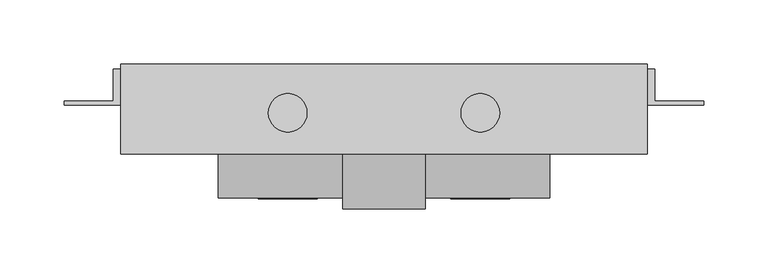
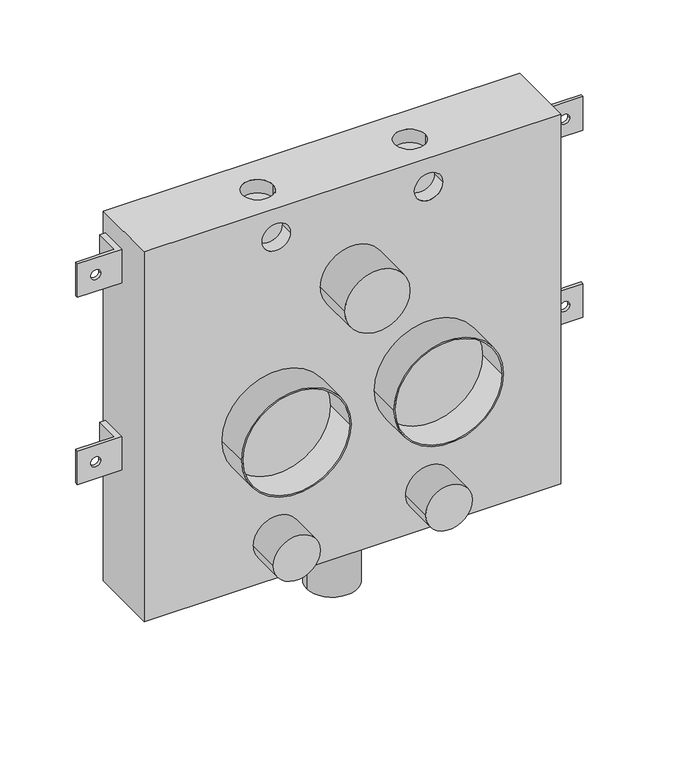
"""IFC4 building model written with IfcOpenShell, lengths in millimetres: flow terminal geometry, nextVIT Waschtisch-Element Wasserzählerstrecke WZ2 Rotguss : nextVIT Waschtisch-Element Wasserzählerstrecke WZ2 Rotguss."""

from ifc_helpers import new_model, si_unit, point, frame, frame_2d, origin, place, context, project, spatial, polyline, circle_curve, ellipse_curve, trimmed, segment, composite_curve, outline, extrude, source, transform, mapped, element, save
from ifc_brep_helpers import plane_surface, revolved_surface, extruded_surface, advanced_brep


def flow_terminal_fb088d42(model_context):
    return source(origin(), model_context, "Body", "SolidModel", [
        advanced_brep(
        [(205.0, -30.0, 620.0677064), (-205.0, -30.0, 620.0677064), (-205.0, -100.0, 620.0677064), (205.0, -100.0, 620.0677064), (-90.0, -68.0, 620.0677064), (-60.0, -68.0, 620.0677064), (60.0, -68.0, 620.0677064), (90.0, -68.0, 620.0677064), (205.0, -30.0, 235.0677064), (205.0, -100.0, 235.0677064), (-205.0, -100.0, 235.0677064), (-205.0, -30.0, 235.0677064), (-60.0, -68.0, 235.0677064), (-90.0, -68.0, 235.0677064), (90.0, -68.0, 235.0677064), (60.0, -68.0, 235.0677064), (-89.0, -100.0, 590.0677064), (-61.0, -100.0, 590.0677064), (61.0, -100.0, 590.0677064), (89.0, -100.0, 590.0677064), (-60.0, -68.0, 606.1), (-90.0, -68.0, 606.1), (90.0, -68.0, 606.1), (60.0, -68.0, 606.1), (-61.0, -86.0, 590.0677064), (-89.0, -86.0, 590.0677064), (89.0, -86.0, 590.0677064), (61.0, -86.0, 590.0677064), (-60.0, -68.0, 249.1), (-90.0, -68.0, 249.1), (90.0, -68.0, 249.1), (60.0, -68.0, 249.1)],
        [
            (0, 1),
            (1, 2),
            (2, 3),
            (3, 0),
            (4, 5, circle_curve(frame((-75.0, -68.0, 620.0677064), z_axis=(0.0, 0.0, -1.0), x_axis=(-1.0, 0.0, 0.0)), 15.0)),
            (5, 4, circle_curve(frame((-75.0, -68.0, 620.0677064), z_axis=(0.0, 0.0, -1.0), x_axis=(-1.0, 0.0, 0.0)), 15.0)),
            (6, 7, circle_curve(frame((75.0, -68.0, 620.0677064), z_axis=(0.0, 0.0, -1.0), x_axis=(-1.0, 0.0, 0.0)), 15.0)),
            (7, 6, circle_curve(frame((75.0, -68.0, 620.0677064), z_axis=(0.0, 0.0, -1.0), x_axis=(-1.0, 0.0, 0.0)), 15.0)),
            (8, 9),
            (9, 10),
            (10, 11),
            (11, 8),
            (12, 13, circle_curve(frame((-75.0, -68.0, 235.0677064), z_axis=(0.0, 0.0, 1.0), x_axis=(-1.0, 0.0, 0.0)), 15.0)),
            (13, 12, circle_curve(frame((-75.0, -68.0, 235.0677064), z_axis=(0.0, 0.0, 1.0), x_axis=(-1.0, 0.0, 0.0)), 15.0)),
            (14, 15, circle_curve(frame((75.0, -68.0, 235.0677064), z_axis=(0.0, 0.0, 1.0), x_axis=(-1.0, 0.0, 0.0)), 15.0)),
            (15, 14, circle_curve(frame((75.0, -68.0, 235.0677064), z_axis=(0.0, 0.0, 1.0), x_axis=(-1.0, 0.0, 0.0)), 15.0)),
            (0, 8),
            (11, 1),
            (10, 2),
            (9, 3),
            (16, 17, circle_curve(frame((-75.0, -100.0, 590.0677064), z_axis=(0.0, 1.0, 0.0), x_axis=(-1.0, 0.0, 0.0)), 14.0)),
            (17, 16, circle_curve(frame((-75.0, -100.0, 590.0677064), z_axis=(0.0, 1.0, 0.0), x_axis=(-1.0, 0.0, 0.0)), 14.0)),
            (18, 19, circle_curve(frame((75.0, -100.0, 590.0677064), z_axis=(0.0, 1.0, 0.0), x_axis=(-1.0, 0.0, 0.0)), 14.0)),
            (19, 18, circle_curve(frame((75.0, -100.0, 590.0677064), z_axis=(0.0, 1.0, 0.0), x_axis=(-1.0, 0.0, 0.0)), 14.0)),
            (20, 21, circle_curve(frame((-75.0, -68.0, 606.1), z_axis=(0.0, 0.0, 1.0), x_axis=(-1.0, 0.0, 0.0)), 15.0)),
            (21, 20, circle_curve(frame((-75.0, -68.0, 606.1), z_axis=(0.0, 0.0, 1.0), x_axis=(-1.0, 0.0, 0.0)), 15.0)),
            (22, 23, circle_curve(frame((75.0, -68.0, 606.1), z_axis=(0.0, 0.0, 1.0), x_axis=(-1.0, 0.0, 0.0)), 15.0)),
            (23, 22, circle_curve(frame((75.0, -68.0, 606.1), z_axis=(0.0, 0.0, 1.0), x_axis=(-1.0, 0.0, 0.0)), 15.0)),
            (20, 5),
            (4, 21),
            (22, 7),
            (6, 23),
            (24, 25, circle_curve(frame((-75.0, -86.0, 590.0677064), z_axis=(0.0, -1.0, 0.0), x_axis=(-1.0, 0.0, 0.0)), 14.0)),
            (25, 24, circle_curve(frame((-75.0, -86.0, 590.0677064), z_axis=(0.0, -1.0, 0.0), x_axis=(-1.0, 0.0, 0.0)), 14.0)),
            (26, 27, circle_curve(frame((75.0, -86.0, 590.0677064), z_axis=(0.0, -1.0, 0.0), x_axis=(-1.0, 0.0, 0.0)), 14.0)),
            (27, 26, circle_curve(frame((75.0, -86.0, 590.0677064), z_axis=(0.0, -1.0, 0.0), x_axis=(-1.0, 0.0, 0.0)), 14.0)),
            (24, 17),
            (16, 25),
            (26, 19),
            (18, 27),
            (28, 29, circle_curve(frame((-75.0, -68.0, 249.1), z_axis=(0.0, 0.0, -1.0), x_axis=(-1.0, 0.0, 0.0)), 15.0)),
            (29, 28, circle_curve(frame((-75.0, -68.0, 249.1), z_axis=(0.0, 0.0, -1.0), x_axis=(-1.0, 0.0, 0.0)), 15.0)),
            (30, 31, circle_curve(frame((75.0, -68.0, 249.1), z_axis=(0.0, 0.0, -1.0), x_axis=(-1.0, 0.0, 0.0)), 15.0)),
            (31, 30, circle_curve(frame((75.0, -68.0, 249.1), z_axis=(0.0, 0.0, -1.0), x_axis=(-1.0, 0.0, 0.0)), 15.0)),
            (29, 13),
            (12, 28),
            (31, 15),
            (14, 30),
        ],
        [
            plane_surface(frame((-205.0, -30.0, 620.0677064), z_axis=(0.0, 0.0, 1.0), x_axis=(-1.0, 0.0, 0.0))),
            plane_surface(frame((-205.0, -30.0, 235.0677064), z_axis=(0.0, 0.0, -1.0), x_axis=(1.0, 0.0, 0.0))),
            plane_surface(frame((205.0, -30.0, 620.0677064), z_axis=(0.0, 1.0, 0.0), x_axis=(0.0, 0.0, -1.0))),
            plane_surface(frame((-205.0, -30.0, 620.0677064), z_axis=(-1.0, 0.0, 0.0), x_axis=(0.0, 0.0, -1.0))),
            plane_surface(frame((-205.0, -100.0, 620.0677064), z_axis=(0.0, -1.0, 0.0), x_axis=(0.0, 0.0, -1.0))),
            plane_surface(frame((205.0, -100.0, 620.0677064), z_axis=(1.0, 0.0, 0.0), x_axis=(0.0, 0.0, -1.0))),
            plane_surface(frame((-90.0, -68.0, 606.1), z_axis=(0.0, 0.0, 1.0), x_axis=(0.0, 1.0, 0.0))),
            revolved_surface(polyline([(-90.0, -68.0, 620.0677064), (-90.0, -68.0, 606.1)]), (-75.0, -68.0, 606.1), (0.0, 0.0, 1.0)),
            revolved_surface(polyline([(60.0, -68.0, 620.0677064), (60.0, -68.0, 606.1)]), (75.0, -68.0, 590.0), (0.0, 0.0, 1.0)),
            plane_surface(frame((0.0, -86.0, 590.0), z_axis=(0.0, -1.0, 0.0), x_axis=(0.0, 0.0, 1.0))),
            revolved_surface(polyline([(-89.0, -100.0, 590.0677064), (-89.0, -86.0, 590.0677064)]), (-75.0, -100.0, 590.0677064), (0.0, -1.0, 0.0)),
            revolved_surface(polyline([(61.0, -100.0, 590.0677064), (61.0, -86.0, 590.0677064)]), (75.0, -100.0, 590.0677064), (0.0, -1.0, 0.0)),
            plane_surface(frame((-90.0, -68.0, 249.1), z_axis=(0.0, 0.0, -1.0), x_axis=(0.0, -1.0, 0.0))),
            revolved_surface(polyline([(-90.0, -68.0, 249.1), (-90.0, -68.0, 235.0677064)]), (-75.0, -68.0, 235.0677064), (0.0, 0.0, 1.0)),
            revolved_surface(polyline([(60.0, -68.0, 249.10000000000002), (60.0, -68.0, 235.06770640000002)]), (75.0, -68.0, 590.0), (0.0, 0.0, 1.0)),
        ],
        [
            (0, [[1, 2, 3, 4], [5, 6], [7, 8]]),
            (1, [[9, 10, 11, 12], [13, 14], [15, 16]]),
            (2, [[-1, 17, -12, 18]]),
            (3, [[-2, -18, -11, 19]]),
            (4, [[-3, -19, -10, 20], [21, 22], [23, 24]]),
            (5, [[-4, -20, -9, -17]]),
            (6, [[25, 26]]),
            (6, [[27, 28]]),
            (7, [[-25, 29, -5, 30]]),
            (7, [[-26, -30, -6, -29]]),
            (8, [[-27, 31, -7, 32]]),
            (8, [[-28, -32, -8, -31]]),
            (9, [[33, 34]]),
            (9, [[35, 36]]),
            (10, [[-33, 37, -21, 38]]),
            (10, [[-34, -38, -22, -37]]),
            (11, [[-35, 39, -23, 40]]),
            (11, [[-36, -40, -24, -39]]),
            (12, [[41, 42]]),
            (12, [[43, 44]]),
            (13, [[-42, 45, -13, 46]]),
            (13, [[-41, -46, -14, -45]]),
            (14, [[-44, 47, -15, 48]]),
            (14, [[-43, -48, -16, -47]]),
        ],
    ),
        extrude(outline(composite_curve([segment(trimmed(circle_curve(frame_2d((277.0677064, -75.0000027)), 23.0133875), [point((277.0677064, -98.0133902))], [point((277.0677064, -51.9866151))], False, "CARTESIAN"), True, "CONTINUOUS"), segment(trimmed(circle_curve(frame_2d((277.0677064, -75.0000027)), 23.0133875), [point((277.0677064, -51.9866151))], [point((277.0677064, -98.0133902))], False, "CARTESIAN"), True, "CONTINUOUS")], self_intersect=False)), frame((0.0, -135.0, 0.0), z_axis=(0.0, 1.0, 0.0), x_axis=(0.0, 0.0, 1.0)), (0.0, 0.0, 1.0), 35.0),
        extrude(outline(composite_curve([segment(trimmed(circle_curve(frame_2d((277.0677064, 75.0000027)), 23.0133875), [point((277.0677064, 51.9866151))], [point((277.0677064, 98.0133902))], False, "CARTESIAN"), True, "CONTINUOUS"), segment(trimmed(circle_curve(frame_2d((277.0677064, 75.0000027)), 23.0133875), [point((277.0677064, 98.0133902))], [point((277.0677064, 51.9866151))], False, "CARTESIAN"), True, "CONTINUOUS")], self_intersect=False)), frame((0.0, -135.0, 0.0), z_axis=(0.0, 1.0, 0.0), x_axis=(0.0, 0.0, 1.0)), (0.0, 0.0, 1.0), 35.0),
        extrude(outline(composite_curve([segment(trimmed(circle_curve(frame_2d((397.0677064, -75.0)), 53.884792), [point((397.0677064, -128.884792))], [point((397.0677064, -21.115208))], False, "CARTESIAN"), True, "CONTINUOUS"), segment(trimmed(circle_curve(frame_2d((397.0677064, -75.0)), 53.884792), [point((397.0677064, -21.115208))], [point((397.0677064, -128.884792))], False, "CARTESIAN"), True, "CONTINUOUS")], self_intersect=False), holes=[composite_curve([segment(trimmed(circle_curve(frame_2d((397.0677064, -75.0)), 52.4670988), [point((397.0677064, -127.4670988))], [point((397.0677064, -22.5329012))], True, "CARTESIAN"), True, "CONTINUOUS"), segment(trimmed(circle_curve(frame_2d((397.0677064, -75.0)), 52.4670988), [point((397.0677064, -22.5329012))], [point((397.0677064, -127.4670988))], True, "CARTESIAN"), True, "CONTINUOUS")], self_intersect=False)]), frame((0.0, -134.2, 0.0), z_axis=(0.0, 1.0, 0.0), x_axis=(0.0, 0.0, 1.0)), (0.0, 0.0, 1.0), 34.2),
        extrude(outline(composite_curve([segment(trimmed(circle_curve(frame_2d((397.0677064, 75.0)), 53.884792), [point((397.0677064, 21.115208))], [point((397.0677064, 128.884792))], False, "CARTESIAN"), True, "CONTINUOUS"), segment(trimmed(circle_curve(frame_2d((397.0677064, 75.0)), 53.884792), [point((397.0677064, 128.884792))], [point((397.0677064, 21.115208))], False, "CARTESIAN"), True, "CONTINUOUS")], self_intersect=False), holes=[composite_curve([segment(trimmed(circle_curve(frame_2d((397.0677064, 75.0)), 52.4670988), [point((397.0677064, 22.5329012))], [point((397.0677064, 127.4670988))], True, "CARTESIAN"), True, "CONTINUOUS"), segment(trimmed(circle_curve(frame_2d((397.0677064, 75.0)), 52.4670988), [point((397.0677064, 127.4670988))], [point((397.0677064, 22.5329012))], True, "CARTESIAN"), True, "CONTINUOUS")], self_intersect=False)]), frame((0.0, -134.2, 0.0), z_axis=(0.0, 1.0, 0.0), x_axis=(0.0, 0.0, 1.0)), (0.0, 0.0, 1.0), 34.2),
        extrude(outline(composite_curve([segment(trimmed(circle_curve(frame_2d((0.0, -65.007)), 25.0), [point((25.0, -65.007))], [point((-25.0, -65.007))], False, "CARTESIAN"), True, "CONTINUOUS"), segment(trimmed(circle_curve(frame_2d((0.0, -65.007)), 25.0), [point((-25.0, -65.007))], [point((25.0, -65.007))], False, "CARTESIAN"), True, "CONTINUOUS")], self_intersect=False)), frame((0.0, 0.0, 185.0677064), z_axis=(0.0, 0.0, 1.0), x_axis=(1.0, 0.0, 0.0)), (0.0, 0.0, 1.0), 50.0),
        advanced_brep(
        [(211.0, -59.0, 600.0677064), (211.0, -34.0, 600.0677064), (205.0, -34.0, 600.0677064), (205.0, -62.0, 600.0677064), (249.0, -62.0, 600.0677064), (249.0, -59.0, 600.0677064), (211.0, -59.0, 565.0677064), (249.0, -59.0, 565.0677064), (249.0, -62.0, 565.0677064), (205.0, -62.0, 565.0677064), (205.0, -34.0, 565.0677064), (211.0, -34.0, 565.0677064), (226.0, -62.0, 582.5677064), (236.0, -62.0, 582.5677064), (236.0, -59.0, 582.5677064), (226.0, -59.0, 582.5677064)],
        [
            (0, 1),
            (1, 2),
            (2, 3),
            (3, 4),
            (4, 5),
            (5, 0),
            (6, 7),
            (7, 8),
            (8, 9),
            (9, 10),
            (10, 11),
            (11, 6),
            (0, 6),
            (11, 1),
            (10, 2),
            (9, 3),
            (8, 4),
            (12, 13, circle_curve(frame((231.0, -62.0, 582.5677064), z_axis=(0.0, 1.0, 0.0), x_axis=(-1.0, 0.0, 0.0)), 5.0)),
            (13, 12, circle_curve(frame((231.0, -62.0, 582.5677064), z_axis=(0.0, 1.0, 0.0), x_axis=(-1.0, 0.0, 0.0)), 5.0)),
            (7, 5),
            (14, 15, circle_curve(frame((231.0, -59.0, 582.5677064), z_axis=(0.0, -1.0, 0.0), x_axis=(-1.0, 0.0, 0.0)), 5.0)),
            (15, 14, circle_curve(frame((231.0, -59.0, 582.5677064), z_axis=(0.0, -1.0, 0.0), x_axis=(-1.0, 0.0, 0.0)), 5.0)),
            (12, 15),
            (14, 13),
        ],
        [
            plane_surface(frame((211.0, -59.0, 600.0677064), z_axis=(0.0, 0.0, 1.0), x_axis=(0.0, 1.0, 0.0))),
            plane_surface(frame((211.0, -59.0, 565.0677064), z_axis=(0.0, 0.0, -1.0), x_axis=(0.0, -1.0, 0.0))),
            plane_surface(frame((211.0, -59.0, 600.0677064), z_axis=(1.0, 0.0, 0.0), x_axis=(0.0, 0.0, -1.0))),
            plane_surface(frame((211.0, -34.0, 600.0677064), z_axis=(0.0, 1.0, 0.0), x_axis=(0.0, 0.0, -1.0))),
            plane_surface(frame((205.0, -34.0, 600.0677064), z_axis=(-1.0, 0.0, 0.0), x_axis=(0.0, 0.0, -1.0))),
            plane_surface(frame((205.0, -62.0, 600.0677064), z_axis=(0.0, -1.0, 0.0), x_axis=(0.0, 0.0, -1.0))),
            plane_surface(frame((249.0, -62.0, 600.0677064), z_axis=(1.0, 0.0, 0.0), x_axis=(0.0, 0.0, -1.0))),
            plane_surface(frame((249.0, -59.0, 600.0677064), z_axis=(0.0, 1.0, 0.0), x_axis=(0.0, 0.0, -1.0))),
            revolved_surface(polyline([(226.0, -62.0, 582.5677064), (226.0, -59.0, 582.5677064)]), (231.0, -62.0, 582.5677064), (0.0, -1.0, 0.0)),
        ],
        [
            (0, [[1, 2, 3, 4, 5, 6]]),
            (1, [[7, 8, 9, 10, 11, 12]]),
            (2, [[-1, 13, -12, 14]]),
            (3, [[-2, -14, -11, 15]]),
            (4, [[-3, -15, -10, 16]]),
            (5, [[-4, -16, -9, 17], [18, 19]]),
            (6, [[-5, -17, -8, 20]]),
            (7, [[-6, -20, -7, -13], [21, 22]]),
            (8, [[23, -21, 24, -18]]),
            (8, [[-23, -19, -24, -22]]),
        ],
    ),
        advanced_brep(
        [(211.0, -59.0, 405.0677064), (211.0, -34.0, 405.0677064), (205.0, -34.0, 405.0677064), (205.0, -62.0, 405.0677064), (249.0, -62.0, 405.0677064), (249.0, -59.0, 405.0677064), (211.0, -59.0, 370.0677064), (249.0, -59.0, 370.0677064), (249.0, -62.0, 370.0677064), (205.0, -62.0, 370.0677064), (205.0, -34.0, 370.0677064), (211.0, -34.0, 370.0677064), (226.0, -62.0, 387.5677064), (236.0, -62.0, 387.5677064), (236.0, -59.0, 387.5677064), (226.0, -59.0, 387.5677064)],
        [
            (0, 1),
            (1, 2),
            (2, 3),
            (3, 4),
            (4, 5),
            (5, 0),
            (6, 7),
            (7, 8),
            (8, 9),
            (9, 10),
            (10, 11),
            (11, 6),
            (0, 6),
            (11, 1),
            (10, 2),
            (9, 3),
            (8, 4),
            (12, 13, circle_curve(frame((231.0, -62.0, 387.5677064), z_axis=(0.0, 1.0, 0.0), x_axis=(-1.0, 0.0, 0.0)), 5.0)),
            (13, 12, circle_curve(frame((231.0, -62.0, 387.5677064), z_axis=(0.0, 1.0, 0.0), x_axis=(-1.0, 0.0, 0.0)), 5.0)),
            (7, 5),
            (14, 15, circle_curve(frame((231.0, -59.0, 387.5677064), z_axis=(0.0, -1.0, 0.0), x_axis=(-1.0, 0.0, 0.0)), 5.0)),
            (15, 14, circle_curve(frame((231.0, -59.0, 387.5677064), z_axis=(0.0, -1.0, 0.0), x_axis=(-1.0, 0.0, 0.0)), 5.0)),
            (12, 15),
            (14, 13),
        ],
        [
            plane_surface(frame((211.0, -59.0, 405.0677064), z_axis=(0.0, 0.0, 1.0), x_axis=(0.0, 1.0, 0.0))),
            plane_surface(frame((211.0, -59.0, 370.0677064), z_axis=(0.0, 0.0, -1.0), x_axis=(0.0, -1.0, 0.0))),
            plane_surface(frame((211.0, -59.0, 405.0677064), z_axis=(1.0, 0.0, 0.0), x_axis=(0.0, 0.0, -1.0))),
            plane_surface(frame((211.0, -34.0, 405.0677064), z_axis=(0.0, 1.0, 0.0), x_axis=(0.0, 0.0, -1.0))),
            plane_surface(frame((205.0, -34.0, 405.0677064), z_axis=(-1.0, 0.0, 0.0), x_axis=(0.0, 0.0, -1.0))),
            plane_surface(frame((205.0, -62.0, 405.0677064), z_axis=(0.0, -1.0, 0.0), x_axis=(0.0, 0.0, -1.0))),
            plane_surface(frame((249.0, -62.0, 405.0677064), z_axis=(1.0, 0.0, 0.0), x_axis=(0.0, 0.0, -1.0))),
            plane_surface(frame((249.0, -59.0, 405.0677064), z_axis=(0.0, 1.0, 0.0), x_axis=(0.0, 0.0, -1.0))),
            revolved_surface(polyline([(226.0, -62.0, 387.5677064), (226.0, -59.0, 387.5677064)]), (231.0, -62.0, 387.5677064), (0.0, -1.0, 0.0)),
        ],
        [
            (0, [[1, 2, 3, 4, 5, 6]]),
            (1, [[7, 8, 9, 10, 11, 12]]),
            (2, [[-1, 13, -12, 14]]),
            (3, [[-2, -14, -11, 15]]),
            (4, [[-3, -15, -10, 16]]),
            (5, [[-4, -16, -9, 17], [18, 19]]),
            (6, [[-5, -17, -8, 20]]),
            (7, [[-6, -20, -7, -13], [21, 22]]),
            (8, [[23, -21, 24, -18]]),
            (8, [[-23, -19, -24, -22]]),
        ],
    ),
        advanced_brep(
        [(-211.0, -59.0, 600.0677064), (-249.0, -59.0, 600.0677064), (-249.0, -62.0, 600.0677064), (-205.0, -62.0, 600.0677064), (-205.0, -34.0, 600.0677064), (-211.0, -34.0, 600.0677064), (-211.0, -59.0, 565.0677064), (-211.0, -34.0, 565.0677064), (-205.0, -34.0, 565.0677064), (-205.0, -62.0, 565.0677064), (-249.0, -62.0, 565.0677064), (-249.0, -59.0, 565.0677064), (-236.0, -62.0, 582.5677064), (-226.0, -62.0, 582.5677064), (-226.0, -59.0, 582.5677064), (-236.0, -59.0, 582.5677064)],
        [
            (0, 1),
            (1, 2),
            (2, 3),
            (3, 4),
            (4, 5),
            (5, 0),
            (6, 7),
            (7, 8),
            (8, 9),
            (9, 10),
            (10, 11),
            (11, 6),
            (5, 7),
            (6, 0),
            (4, 8),
            (3, 9),
            (2, 10),
            (12, 13, circle_curve(frame((-231.0, -62.0, 582.5677064), z_axis=(0.0, 1.0, 0.0), x_axis=(-1.0, 0.0, 0.0)), 5.0)),
            (13, 12, circle_curve(frame((-231.0, -62.0, 582.5677064), z_axis=(0.0, 1.0, 0.0), x_axis=(-1.0, 0.0, 0.0)), 5.0)),
            (1, 11),
            (14, 15, circle_curve(frame((-231.0, -59.0, 582.5677064), z_axis=(0.0, -1.0, 0.0), x_axis=(-1.0, 0.0, 0.0)), 5.0)),
            (15, 14, circle_curve(frame((-231.0, -59.0, 582.5677064), z_axis=(0.0, -1.0, 0.0), x_axis=(-1.0, 0.0, 0.0)), 5.0)),
            (12, 15),
            (14, 13),
        ],
        [
            plane_surface(frame((-249.0, -59.0, 600.0677064), z_axis=(0.0, 0.0, 1.0), x_axis=(-1.0, 0.0, 0.0))),
            plane_surface(frame((-249.0, -59.0, 565.0677064), z_axis=(0.0, 0.0, -1.0), x_axis=(1.0, 0.0, 0.0))),
            plane_surface(frame((-211.0, -34.0, 600.0677064), z_axis=(-1.0, 0.0, 0.0), x_axis=(0.0, 0.0, -1.0))),
            plane_surface(frame((-205.0, -34.0, 600.0677064), z_axis=(0.0, 1.0, 0.0), x_axis=(0.0, 0.0, -1.0))),
            plane_surface(frame((-205.0, -62.0, 600.0677064), z_axis=(1.0, 0.0, 0.0), x_axis=(0.0, 0.0, -1.0))),
            plane_surface(frame((-249.0, -62.0, 600.0677064), z_axis=(0.0, -1.0, 0.0), x_axis=(0.0, 0.0, -1.0))),
            plane_surface(frame((-249.0, -59.0, 600.0677064), z_axis=(-1.0, 0.0, 0.0), x_axis=(0.0, 0.0, -1.0))),
            plane_surface(frame((-211.0, -59.0, 600.0677064), z_axis=(0.0, 1.0, 0.0), x_axis=(0.0, 0.0, -1.0))),
            revolved_surface(polyline([(-236.0, -62.0, 582.5677064), (-236.0, -59.0, 582.5677064)]), (-231.0, -62.0, 582.5677064), (0.0, -1.0, 0.0)),
        ],
        [
            (0, [[1, 2, 3, 4, 5, 6]]),
            (1, [[7, 8, 9, 10, 11, 12]]),
            (2, [[-6, 13, -7, 14]]),
            (3, [[-5, 15, -8, -13]]),
            (4, [[-4, 16, -9, -15]]),
            (5, [[-3, 17, -10, -16], [18, 19]]),
            (6, [[-2, 20, -11, -17]]),
            (7, [[-1, -14, -12, -20], [21, 22]]),
            (8, [[23, -21, 24, -18]]),
            (8, [[-23, -19, -24, -22]]),
        ],
    ),
        advanced_brep(
        [(-211.0, -59.0, 405.0677064), (-249.0, -59.0, 405.0677064), (-249.0, -62.0, 405.0677064), (-205.0, -62.0, 405.0677064), (-205.0, -34.0, 405.0677064), (-211.0, -34.0, 405.0677064), (-211.0, -59.0, 370.0677064), (-211.0, -34.0, 370.0677064), (-205.0, -34.0, 370.0677064), (-205.0, -62.0, 370.0677064), (-249.0, -62.0, 370.0677064), (-249.0, -59.0, 370.0677064), (-236.0, -62.0, 387.5677064), (-226.0, -62.0, 387.5677064), (-226.0, -59.0, 387.5677064), (-236.0, -59.0, 387.5677064)],
        [
            (0, 1),
            (1, 2),
            (2, 3),
            (3, 4),
            (4, 5),
            (5, 0),
            (6, 7),
            (7, 8),
            (8, 9),
            (9, 10),
            (10, 11),
            (11, 6),
            (5, 7),
            (6, 0),
            (4, 8),
            (3, 9),
            (2, 10),
            (12, 13, circle_curve(frame((-231.0, -62.0, 387.5677064), z_axis=(0.0, 1.0, 0.0), x_axis=(-1.0, 0.0, 0.0)), 5.0)),
            (13, 12, circle_curve(frame((-231.0, -62.0, 387.5677064), z_axis=(0.0, 1.0, 0.0), x_axis=(-1.0, 0.0, 0.0)), 5.0)),
            (1, 11),
            (14, 15, circle_curve(frame((-231.0, -59.0, 387.5677064), z_axis=(0.0, -1.0, 0.0), x_axis=(-1.0, 0.0, 0.0)), 5.0)),
            (15, 14, circle_curve(frame((-231.0, -59.0, 387.5677064), z_axis=(0.0, -1.0, 0.0), x_axis=(-1.0, 0.0, 0.0)), 5.0)),
            (12, 15),
            (14, 13),
        ],
        [
            plane_surface(frame((-249.0, -59.0, 405.0677064), z_axis=(0.0, 0.0, 1.0), x_axis=(-1.0, 0.0, 0.0))),
            plane_surface(frame((-249.0, -59.0, 370.0677064), z_axis=(0.0, 0.0, -1.0), x_axis=(1.0, 0.0, 0.0))),
            plane_surface(frame((-211.0, -34.0, 405.0677064), z_axis=(-1.0, 0.0, 0.0), x_axis=(0.0, 0.0, -1.0))),
            plane_surface(frame((-205.0, -34.0, 405.0677064), z_axis=(0.0, 1.0, 0.0), x_axis=(0.0, 0.0, -1.0))),
            plane_surface(frame((-205.0, -62.0, 405.0677064), z_axis=(1.0, 0.0, 0.0), x_axis=(0.0, 0.0, -1.0))),
            plane_surface(frame((-249.0, -62.0, 405.0677064), z_axis=(0.0, -1.0, 0.0), x_axis=(0.0, 0.0, -1.0))),
            plane_surface(frame((-249.0, -59.0, 405.0677064), z_axis=(-1.0, 0.0, 0.0), x_axis=(0.0, 0.0, -1.0))),
            plane_surface(frame((-211.0, -59.0, 405.0677064), z_axis=(0.0, 1.0, 0.0), x_axis=(0.0, 0.0, -1.0))),
            revolved_surface(polyline([(-236.0, -62.0, 387.5677064), (-236.0, -59.0, 387.5677064)]), (-231.0, -62.0, 387.5677064), (0.0, -1.0, 0.0)),
        ],
        [
            (0, [[1, 2, 3, 4, 5, 6]]),
            (1, [[7, 8, 9, 10, 11, 12]]),
            (2, [[-6, 13, -7, 14]]),
            (3, [[-5, 15, -8, -13]]),
            (4, [[-4, 16, -9, -15]]),
            (5, [[-3, 17, -10, -16], [18, 19]]),
            (6, [[-2, 20, -11, -17]]),
            (7, [[-1, -14, -12, -20], [21, 22]]),
            (8, [[23, -21, 24, -18]]),
            (8, [[-23, -19, -24, -22]]),
        ],
    ),
        advanced_brep(
        [(32.0, -100.0, 523.2248814), (-32.0, -100.0, 523.2248814), (32.0, -142.762778, 523.2248814), (-32.0, -142.762778, 523.2248814)],
        [
            (0, 1, ellipse_curve(frame((0.0, -100.0, 523.2248814), z_axis=(0.0, 1.0, 0.0), x_axis=(-1.0, 0.0, 0.0)), 32.0, 31.9695431)),
            (1, 0, ellipse_curve(frame((0.0, -100.0, 523.2248814), z_axis=(0.0, 1.0, 0.0), x_axis=(-1.0, 0.0, 0.0)), 32.0, 31.9695431)),
            (2, 3, ellipse_curve(frame((0.0, -142.762778, 523.2248814), z_axis=(0.0, -1.0, 0.0), x_axis=(-1.0, 0.0, 0.0)), 32.0, 31.9695431)),
            (3, 2, ellipse_curve(frame((0.0, -142.762778, 523.2248814), z_axis=(0.0, -1.0, 0.0), x_axis=(-1.0, 0.0, 0.0)), 32.0, 31.9695431)),
            (0, 2),
            (3, 1),
        ],
        [
            plane_surface(frame((0.0, -100.0, 590.0), z_axis=(0.0, 1.0, 0.0), x_axis=(0.0, 0.0, 1.0))),
            plane_surface(frame((0.0, -142.762778, 590.0), z_axis=(0.0, -1.0, 0.0), x_axis=(0.0, 0.0, 1.0))),
            extruded_surface(trimmed(ellipse_curve(frame((0.0, -142.762778, 523.2248814), z_axis=(0.0, 1.0, 0.0), x_axis=(-1.0, 0.0, 0.0)), 32.0, 31.9695431), [point((32.0, -142.762778, 523.2248814))], [point((-32.0, -142.762778, 523.2248814))], True, "CARTESIAN"), (0.0, 42.762778, 0.0), 42.762778),
            extruded_surface(trimmed(ellipse_curve(frame((0.0, -142.762778, 523.2248814), z_axis=(0.0, 1.0, 0.0), x_axis=(-1.0, 0.0, 0.0)), 32.0, 31.9695431), [point((-32.0, -142.762778, 523.2248814))], [point((32.0, -142.762778, 523.2248814))], True, "CARTESIAN"), (0.0, 42.762778, 0.0), 42.762778),
        ],
        [
            (0, [[1, 2]]),
            (1, [[3, 4]]),
            (2, [[-1, 5, -4, 6]]),
            (3, [[-2, -6, -3, -5]]),
        ],
    ),
        extrude(outline(composite_curve([segment(trimmed(circle_curve(frame_2d((397.0677064, -75.0)), 52.4670988), [point((397.0677064, -22.5329012))], [point((397.0677064, -127.4670988))], False, "CARTESIAN"), True, "CONTINUOUS"), segment(trimmed(circle_curve(frame_2d((397.0677064, -75.0)), 52.4670988), [point((397.0677064, -127.4670988))], [point((397.0677064, -22.5329012))], False, "CARTESIAN"), True, "CONTINUOUS")], self_intersect=False)), frame((0.0, -102.0007487, 0.0), z_axis=(0.0, 1.0, 0.0), x_axis=(0.0, 0.0, 1.0)), (0.0, 0.0, 1.0), 2.0007487),
        extrude(outline(composite_curve([segment(trimmed(circle_curve(frame_2d((397.0677064, 75.0)), 52.4670988), [point((397.0677064, 127.4670988))], [point((397.0677064, 22.5329012))], False, "CARTESIAN"), True, "CONTINUOUS"), segment(trimmed(circle_curve(frame_2d((397.0677064, 75.0)), 52.4670988), [point((397.0677064, 22.5329012))], [point((397.0677064, 127.4670988))], False, "CARTESIAN"), True, "CONTINUOUS")], self_intersect=False)), frame((0.0, -102.0007487, 0.0), z_axis=(0.0, 1.0, 0.0), x_axis=(0.0, 0.0, 1.0)), (0.0, 0.0, 1.0), 2.0007487),
    ])


if __name__ == "__main__":
    model = new_model("IFC4")
    model_context = context("Model", 3, world=origin())
    ifc_project = project(units=[si_unit("LENGTHUNIT", "METRE", prefix="MILLI")], contexts=[model_context])
    site = spatial("IfcSite", under=ifc_project)
    building = spatial("IfcBuilding", under=site)
    placement = place(None, origin())
    flow_terminal_shape = flow_terminal_fb088d42(model_context)
    element("IfcFlowTerminal", 1, ObjectType="nextVIT Waschtisch-Element Wasserzählerstrecke WZ2 Rotguss : nextVIT Waschtisch-Element Wasserzählerstrecke WZ2 Rotguss", at=placement, inside=building, context=model_context, shape_type="MappedRepresentation", body=[
        mapped(flow_terminal_shape, transform((0.0, 0.0, 0.0), x_axis=(1.0, 0.0, 0.0), y_axis=(0.0, 1.0, 0.0), z_axis=(0.0, 0.0, 1.0))),
    ])
    save(model, "model.ifc")
